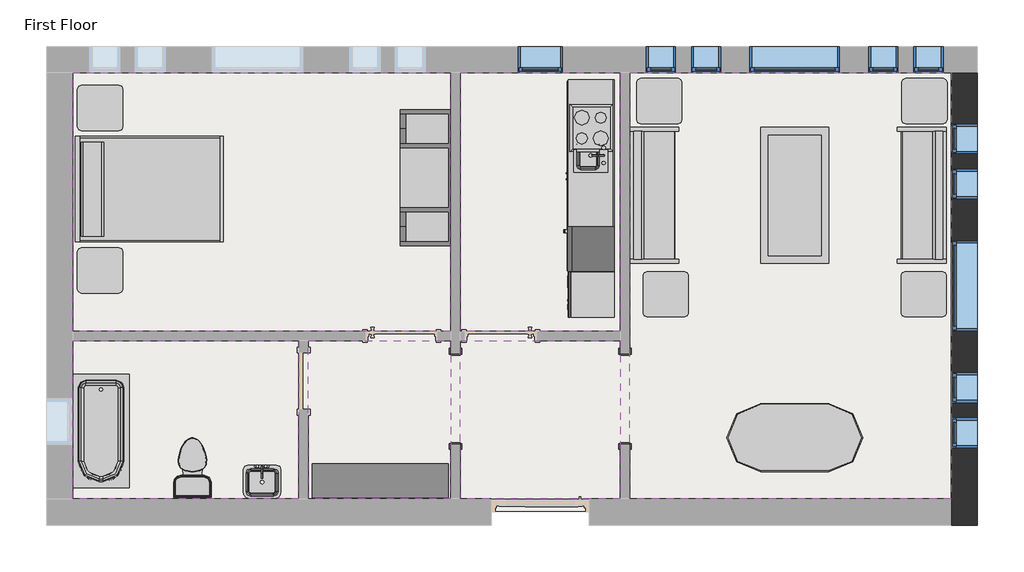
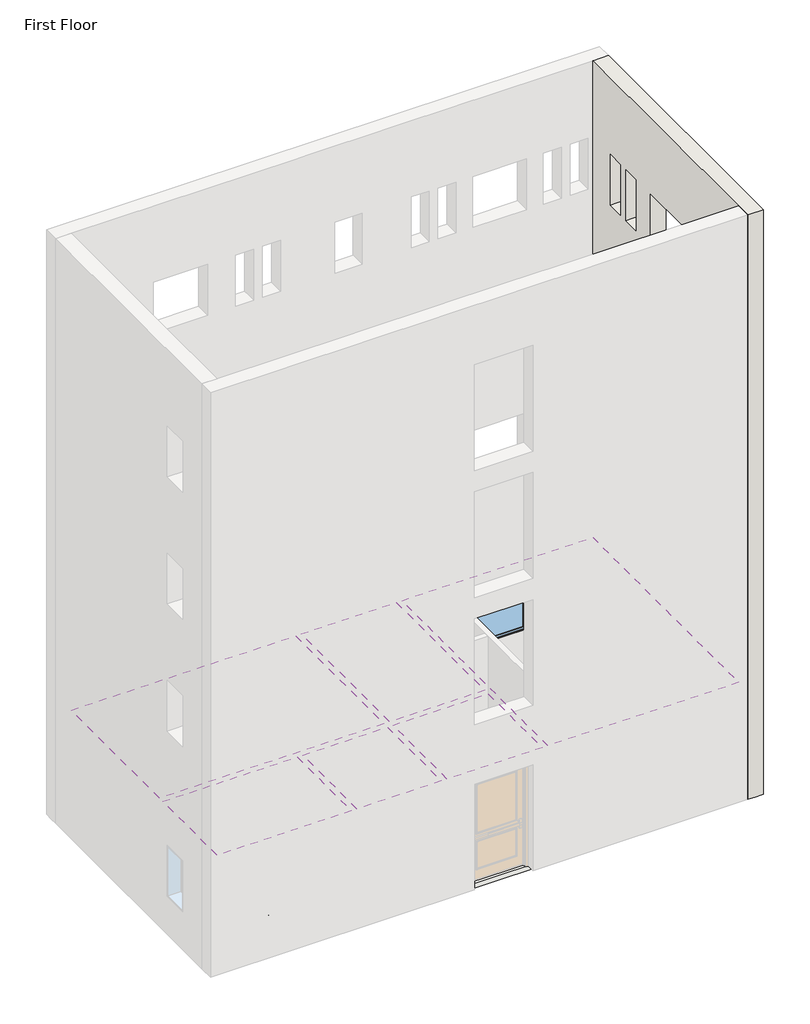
# One storey, part 2 of 2: 14 furniture elements, 11 windows, 6 coverings, 6 proxies, 4 flow terminals, 1 slab, 1 wall.
"""IFC4 building model written with IfcOpenShell, lengths in millimetres."""

from ifc_helpers import new_model, si_unit, frame, origin, place, context, project, spatial, polyline, outline, extrude, faceted_brep, transform, mapped, element, save
from components import proxy_a6faaae8, proxy_45b28599, proxy_2d72b8be, proxy_f44482cc, proxy_d58c73d0, proxy_c523a7b7, flow_terminal_871c2e40, flow_terminal_62a433f7, toilet_domestic_3d_toilet_domestic_3d_f7549cf7, toilet_domestic_3d_toilet_domestic_3d_183bbd19, tub_rectangular_3d_tub_rectangular_3d_c56944d8, furniture_096e7f55, furniture_b11095bc, furniture_7c473f12, furniture_cf0b6580, furniture_a4ffab56, furniture_4aa42607, furniture_cd93a443, furniture_2c34a4f9, furniture_3a588284, furniture_1befe2a2, window_da97879f, window_d61ef850, window_60baf983, window_6eb97611

model = new_model("IFC4")

# Units and contexts
model_context = context("Model", 3, world=origin())
ifc_project = project(units=[si_unit("LENGTHUNIT", "METRE", prefix="MILLI")], contexts=[model_context])

# Site, building, storey
site = spatial("IfcSite", under=ifc_project)
building = spatial("IfcBuilding", under=site)
storey = spatial("IfcBuildingStorey", under=building, Name="First Floor", Elevation=-914.4)

# Proxies
placement = place(None, origin())
proxy_shape = proxy_a6faaae8(model_context)
element("IfcBuildingElementProxy", 1, Name="Cook Top-4 Unit2 : 22\" x 20\"", ObjectType="Cook Top-4 Unit2 : 22\" x 20\"", at=placement, inside=storey, context=model_context, shape_type="MappedRepresentation", body=[
    mapped(proxy_shape, transform((-9031.7273953, 6866.0370415, -912.7), x_axis=(0.0, 1.0, 0.0), y_axis=(-1.0, 0.0, 0.0), z_axis=(0.0, 0.0, 1.0))),
])
proxy_2_shape = proxy_45b28599(model_context)
element("IfcBuildingElementProxy", 2, Name="Dishwasher : 24\" x 24\" x 34\"", ObjectType="Dishwasher : 24\" x 24\" x 34\"", at=placement, inside=storey, context=model_context, shape_type="MappedRepresentation", body=[
    mapped(proxy_2_shape, transform((-9291.8269601, 5000.45451, -914.4), x_axis=(0.0, -1.0, 0.0), y_axis=(1.0, 0.0, 0.0), z_axis=(0.0, 0.0, 1.0))),
])
proxy_3_shape = proxy_2d72b8be(model_context)
element("IfcBuildingElementProxy", 3, Name="Kitchenette - Medium : 8'6\"", ObjectType="Kitchenette - Medium : 8'6\"", at=placement, inside=storey, context=model_context, shape_type="MappedRepresentation", body=[
    mapped(proxy_3_shape, transform((-8720.5773953, 6237.0747464, -914.4), x_axis=(0.0, -1.0, 0.0), y_axis=(1.0, 0.0, 0.0), z_axis=(0.0, 0.0, 1.0))),
])
proxy_4_shape = proxy_f44482cc(model_context)
element("IfcBuildingElementProxy", 4, Name="Passage Opening-Cased : 48\" x 84\"", ObjectType="Passage Opening-Cased : 48\" x 84\"", at=placement, inside=storey, context=model_context, shape_type="MappedRepresentation", body=[
    mapped(proxy_4_shape, transform((-8577.1844712, 3224.0452741, -914.4), x_axis=(0.0, 1.0, 0.0), y_axis=(-1.0, 0.0, 0.0), z_axis=(0.0, 0.0, 1.0))),
])
proxy_5_shape = proxy_d58c73d0(model_context)
element("IfcBuildingElementProxy", 5, Name="Passage Opening-Cased : 48\" x 84\"", ObjectType="Passage Opening-Cased : 48\" x 84\"", at=placement, inside=storey, context=model_context, shape_type="MappedRepresentation", body=[
    mapped(proxy_5_shape, transform((-10863.1844712, 3224.0452741, -914.4), x_axis=(0.0, 1.0, 0.0), y_axis=(-1.0, 0.0, 0.0), z_axis=(0.0, 0.0, 1.0))),
])
proxy_6_shape = proxy_c523a7b7(model_context)
element("IfcBuildingElementProxy", 6, Name="Refrigerator : 24\" x 25\" LH", ObjectType="Refrigerator : 24\" x 25\" LH", at=placement, inside=storey, context=model_context, shape_type="MappedRepresentation", body=[
    mapped(proxy_6_shape, transform((-9020.2263668, 5234.0870415, -914.4), x_axis=(0.0, -1.0, 0.0), y_axis=(1.0, 0.0, 0.0), z_axis=(0.0, 0.0, 1.0))),
])

# Coverings
element("IfcCovering", 7, ObjectType="GWB on Mtl. Stud", at=placement, inside=storey, context=model_context, shape_type="SweptSolid", body=[
    extrude(outline(polyline([(-16020.9719712, 7611.6441174), (-10926.6844712, 7611.6441174), (-10926.6844712, 4128.6691174), (-16020.9719712, 4128.6691174), (-16020.9719712, 7611.6441174)])), frame((0.0, 0.0, 1676.4), z_axis=(0.0, 0.0, 1.0), x_axis=(1.0, 0.0, 0.0)), (0.0, 0.0, 1.0), 107.95),
])
element("IfcCovering", 8, ObjectType="GWB on Mtl. Stud", at=placement, inside=storey, context=model_context, shape_type="SweptSolid", body=[
    extrude(outline(polyline([(-10799.6844712, 4128.6691174), (-10799.6844712, 7611.6441174), (-8640.6844712, 7611.6441174), (-8640.6844712, 4128.6691174), (-10799.6844712, 4128.6691174)])), frame((0.0, 0.0, 1676.4), z_axis=(0.0, 0.0, 1.0), x_axis=(1.0, 0.0, 0.0)), (0.0, 0.0, 1.0), 107.95),
])
element("IfcCovering", 9, ObjectType="GWB on Mtl. Stud", at=placement, inside=storey, context=model_context, shape_type="SweptSolid", body=[
    extrude(outline(polyline([(-8513.6844712, 1868.0691174), (-8513.6844712, 7611.6441174), (-4181.3969712, 7611.6441174), (-4181.3969712, 1868.0691174), (-8513.6844712, 1868.0691174)])), frame((0.0, 0.0, 1676.4), z_axis=(0.0, 0.0, 1.0), x_axis=(1.0, 0.0, 0.0)), (0.0, 0.0, 1.0), 107.95),
])
element("IfcCovering", 10, ObjectType="GWB on Mtl. Stud", at=placement, inside=storey, context=model_context, shape_type="SweptSolid", body=[
    extrude(outline(polyline([(-8640.6844712, 1868.0691174), (-10799.6844712, 1868.0691174), (-10799.6844712, 4001.6691174), (-8640.6844712, 4001.6691174), (-8640.6844712, 1868.0691174)])), frame((0.0, 0.0, 1676.4), z_axis=(0.0, 0.0, 1.0), x_axis=(1.0, 0.0, 0.0)), (0.0, 0.0, 1.0), 107.95),
])
element("IfcCovering", 11, ObjectType="GWB on Mtl. Stud", at=placement, inside=storey, context=model_context, shape_type="SweptSolid", body=[
    extrude(outline(polyline([(-10926.6844712, 1868.0691174), (-12845.9719712, 1868.0691174), (-12845.9719712, 4001.6691174), (-10926.6844712, 4001.6691174), (-10926.6844712, 1868.0691174)])), frame((0.0, 0.0, 1676.4), z_axis=(0.0, 0.0, 1.0), x_axis=(1.0, 0.0, 0.0)), (0.0, 0.0, 1.0), 107.95),
])
element("IfcCovering", 12, ObjectType="GWB on Mtl. Stud", at=placement, inside=storey, context=model_context, shape_type="SweptSolid", body=[
    extrude(outline(polyline([(-12972.9719712, 4001.6691174), (-12972.9719712, 1868.0691174), (-16020.9719712, 1868.0691174), (-16020.9719712, 4001.6691174), (-12972.9719712, 4001.6691174)])), frame((0.0, 0.0, 1676.4), z_axis=(0.0, 0.0, 1.0), x_axis=(1.0, 0.0, 0.0)), (0.0, 0.0, 1.0), 107.95),
])

# Flow terminals
flow_terminal_shape = flow_terminal_871c2e40(model_context)
element("IfcFlowTerminal", 13, ObjectType="Sink Kitchen-Island : 18\" x 18\"", at=placement, inside=storey, context=model_context, shape_type="MappedRepresentation", body=[
    mapped(flow_terminal_shape, transform((-9040.4227964, 6513.4262821, -927.1), x_axis=(0.0, -1.0, 0.0), y_axis=(1.0, 0.0, 0.0), z_axis=(0.0, 0.0, 1.0))),
])
flow_terminal_2_shape = flow_terminal_62a433f7(model_context)
element("IfcFlowTerminal", 14, ObjectType="Sink Vanity-Square : 20\" x 18\"", at=placement, inside=storey, context=model_context, shape_type="MappedRepresentation", body=[
    mapped(flow_terminal_2_shape, transform((-13483.9612118, 2145.1237163, -914.4), x_axis=(1.0, 0.0, 0.0), y_axis=(0.0, 1.0, 0.0), z_axis=(0.0, 0.0, 1.0))),
])
toilet_domestic_3d_toilet_domestic_3d_shape = toilet_domestic_3d_toilet_domestic_3d_f7549cf7(model_context)
toilet_domestic_3d_toilet_domestic_3d_2_shape = toilet_domestic_3d_toilet_domestic_3d_183bbd19(model_context)
element("IfcFlowTerminal", 15, ObjectType="Toilet-Domestic-3D : Toilet-Domestic-3D", at=placement, inside=storey, context=model_context, shape_type="MappedRepresentation", body=[
    mapped(toilet_domestic_3d_toilet_domestic_3d_shape, transform((-14408.0719712, 2388.7691174, -914.4), x_axis=(-1.0, 0.0, 0.0), y_axis=(0.0, -1.0, 0.0), z_axis=(0.0, 0.0, 1.0))),
    mapped(toilet_domestic_3d_toilet_domestic_3d_2_shape, transform((-14408.0719712, 2388.7691174, -914.4), x_axis=(-1.0, 0.0, 0.0), y_axis=(0.0, -1.0, 0.0), z_axis=(0.0, 0.0, 1.0))),
])
tub_rectangular_3d_tub_rectangular_3d_shape = tub_rectangular_3d_tub_rectangular_3d_c56944d8(model_context)
element("IfcFlowTerminal", 16, ObjectType="Tub-Rectangular-3D : Tub-Rectangular-3D", at=placement, inside=storey, context=model_context, shape_type="MappedRepresentation", body=[
    mapped(tub_rectangular_3d_tub_rectangular_3d_shape, transform((-16197.1844712, 2435.4536487, -914.4), x_axis=(0.0, -1.0, 0.0), y_axis=(1.0, 0.0, 0.0), z_axis=(0.0, 0.0, 1.0))),
])

# Furniture
furniture_shape = furniture_096e7f55(model_context)
element("IfcFurniture", 17, ObjectType="Bed-Shaker : Double 56\" x 78\"", at=placement, inside=storey, context=model_context, shape_type="MappedRepresentation", body=[
    mapped(furniture_shape, transform((-15975.8112951, 6061.1004868, -914.4), x_axis=(0.0, 1.0, 0.0), y_axis=(-1.0, 0.0, 0.0), z_axis=(0.0, 0.0, 1.0))),
])
furniture_2_shape = furniture_b11095bc(model_context)
element("IfcFurniture", 18, ObjectType="Counter Top w Sink Hole : 24\" Depth", at=placement, inside=storey, context=model_context, shape_type="MappedRepresentation", body=[
    mapped(furniture_2_shape, transform((-8720.5773953, 6313.2747464, -927.1), x_axis=(0.0, -1.0, 0.0), y_axis=(1.0, 0.0, 0.0), z_axis=(0.0, 0.0, 1.0))),
])
furniture_3_shape = furniture_7c473f12(model_context)
element("IfcFurniture", 19, ObjectType="Dresser : 72\" x 60\" x 18\"", at=placement, inside=storey, context=model_context, shape_type="MappedRepresentation", body=[
    mapped(furniture_3_shape, transform((-11608.4037114, 2478.8820715, -914.4), x_axis=(1.0, 0.0, 0.0), y_axis=(0.0, 1.0, 0.0), z_axis=(0.0, 0.0, 1.0))),
])
furniture_4_shape = furniture_cf0b6580(model_context)
element("IfcFurniture", 20, ObjectType="Entertainment Center : 72\" x 72\" x 24\"", at=placement, inside=storey, context=model_context, shape_type="MappedRepresentation", body=[
    mapped(furniture_4_shape, transform((-10825.0844712, 6196.8069525, -914.4), x_axis=(0.0, -1.0, 0.0), y_axis=(1.0, 0.0, 0.0), z_axis=(0.0, 0.0, 1.0))),
])
furniture_5_shape = furniture_a4ffab56(model_context)
element("IfcFurniture", 21, ObjectType="Sofa : 72\"", at=placement, inside=storey, context=model_context, shape_type="MappedRepresentation", body=[
    mapped(furniture_5_shape, transform((-8037.3303728, 5888.6861256, -914.4), x_axis=(0.0, 1.0, 0.0), y_axis=(-1.0, 0.0, 0.0), z_axis=(0.0, 0.0, 1.0))),
])
furniture_6_shape = furniture_4aa42607(model_context)
element("IfcFurniture", 22, ObjectType="Sofa : 72\"", at=placement, inside=storey, context=model_context, shape_type="MappedRepresentation", body=[
    mapped(furniture_6_shape, transform((-4722.8385696, 5888.6861256, -914.4), x_axis=(0.0, 1.0, 0.0), y_axis=(-1.0, 0.0, 0.0), z_axis=(0.0, 0.0, 1.0))),
])
furniture_7_shape = furniture_cd93a443(model_context)
element("IfcFurniture", 23, ObjectType="Table-Coffee : 36\" x 72\" x 18\"", at=placement, inside=storey, context=model_context, shape_type="MappedRepresentation", body=[
    mapped(furniture_7_shape, transform((-6386.395549, 5977.3223841, -914.4), x_axis=(0.0, -1.0, 0.0), y_axis=(1.0, 0.0, 0.0), z_axis=(0.0, 0.0, 1.0))),
])
furniture_8_shape = furniture_2c34a4f9(model_context)
element("IfcFurniture", 24, ObjectType="Table-Dining Oval : 36\" x 72\"", at=placement, inside=storey, context=model_context, shape_type="MappedRepresentation", body=[
    mapped(furniture_8_shape, transform((-5889.3647991, 3051.6674781, -914.4), x_axis=(1.0, 0.0, 0.0), y_axis=(0.0, 1.0, 0.0), z_axis=(0.0, 0.0, 1.0))),
])
furniture_9_shape = furniture_3a588284(model_context)
element("IfcFurniture", 25, ObjectType="Table-End : 24\" x 24\"", at=placement, inside=storey, context=model_context, shape_type="MappedRepresentation", body=[
    mapped(furniture_9_shape, transform((-8424.0054177, 7076.6566174, -914.4), x_axis=(1.0, 0.0, 0.0), y_axis=(0.0, 1.0, 0.0), z_axis=(0.0, 0.0, 1.0))),
])
element("IfcFurniture", 26, ObjectType="Table-End : 24\" x 24\"", at=placement, inside=storey, context=model_context, shape_type="MappedRepresentation", body=[
    mapped(furniture_9_shape, transform((-8338.5433691, 4473.0178252, -914.4), x_axis=(1.0, 0.0, 0.0), y_axis=(0.0, 1.0, 0.0), z_axis=(0.0, 0.0, 1.0))),
])
element("IfcFurniture", 27, ObjectType="Table-End : 24\" x 24\"", at=placement, inside=storey, context=model_context, shape_type="MappedRepresentation", body=[
    mapped(furniture_9_shape, transform((-15961.2056015, 4795.4191174, -914.4), x_axis=(1.0, 0.0, 0.0), y_axis=(0.0, 1.0, 0.0), z_axis=(0.0, 0.0, 1.0))),
])
furniture_10_shape = furniture_1befe2a2(model_context)
element("IfcFurniture", 28, ObjectType="Table-End : 24\" x 24\"", at=placement, inside=storey, context=model_context, shape_type="MappedRepresentation", body=[
    mapped(furniture_10_shape, transform((-4234.5635246, 7076.6566174, -914.4), x_axis=(-1.0, 0.0, 0.0), y_axis=(0.0, -1.0, 0.0), z_axis=(0.0, 0.0, 1.0))),
])
element("IfcFurniture", 29, ObjectType="Table-End : 24\" x 24\"", at=placement, inside=storey, context=model_context, shape_type="MappedRepresentation", body=[
    mapped(furniture_10_shape, transform((-4243.8255733, 4473.0178252, -914.4), x_axis=(-1.0, 0.0, 0.0), y_axis=(0.0, -1.0, 0.0), z_axis=(0.0, 0.0, 1.0))),
])
element("IfcFurniture", 30, ObjectType="Table-End : 24\" x 24\"", at=placement, inside=storey, context=model_context, shape_type="MappedRepresentation", body=[
    mapped(furniture_10_shape, transform((-15961.2056015, 7288.6818561, -914.4), x_axis=(1.0, 0.0, 0.0), y_axis=(0.0, 1.0, 0.0), z_axis=(0.0, 0.0, 1.0))),
])

# Slab
element("IfcSlab", 31, ObjectType="LW Concrete on Metal Deck", at=placement, inside=storey, context=model_context, shape_type="SweptSolid", body=[
    extrude(outline(polyline([(-4016.2969712, 7776.7441174), (-4016.2969712, 1702.9691174), (-16186.0719712, 1702.9691174), (-16186.0719712, 7776.7441174), (-4016.2969712, 7776.7441174)])), frame((0.0, 0.0, -1019.175), z_axis=(0.0, 0.0, 1.0), x_axis=(1.0, 0.0, 0.0)), (0.0, 0.0, 1.0), 104.775),
])

# Wall
element("IfcWall", 32, ObjectType="Exterior - Brick on Mtl. Stud", at=placement, inside=storey, context=model_context, shape_type="Brep", body=[
    faceted_brep([(-4181.3969712, 7611.6441174, -914.4), (-4181.3969712, 1868.0691174, -914.4), (-4181.3969712, 1702.9691174, -914.4), (-4181.3969712, 1515.6441174, -914.4), (-4181.3969712, 1515.6441174, 13106.4), (-4181.3969712, 1868.0691174, 13106.4), (-4181.3969712, 7611.6441174, 13106.4), (-4181.3969712, 5349.4566174, 1219.2), (-4181.3969712, 4130.2566174, 1219.2), (-4181.3969712, 4130.2566174, 0.0), (-4181.3969712, 5349.4566174, 0.0), (-4181.3969712, 6314.6566174, 1219.2), (-4181.3969712, 5908.2566174, 1219.2), (-4181.3969712, 5908.2566174, 0.0), (-4181.3969712, 6314.6566174, 0.0), (-4181.3969712, 6924.2566174, 1219.2), (-4181.3969712, 6517.8566174, 1219.2), (-4181.3969712, 6517.8566174, 0.0), (-4181.3969712, 6924.2566174, 0.0), (-4181.3969712, 3165.0566174, 1219.2), (-4181.3969712, 3165.0566174, 0.0), (-4181.3969712, 3571.4566174, 0.0), (-4181.3969712, 3571.4566174, 1219.2), (-4181.3969712, 2555.4566174, 1219.2), (-4181.3969712, 2555.4566174, 0.0), (-4181.3969712, 2961.8566174, 0.0), (-4181.3969712, 2961.8566174, 1219.2), (-4181.3969712, 3165.0566174, 11277.6), (-4181.3969712, 3165.0566174, 10058.4), (-4181.3969712, 3571.4566174, 10058.4), (-4181.3969712, 3571.4566174, 11277.6), (-4181.3969712, 2555.4566174, 11277.6), (-4181.3969712, 2555.4566174, 10058.4), (-4181.3969712, 2961.8566174, 10058.4), (-4181.3969712, 2961.8566174, 11277.6), (-4181.3969712, 6314.6566174, 11277.6), (-4181.3969712, 5908.2566174, 11277.6), (-4181.3969712, 5908.2566174, 10058.4), (-4181.3969712, 6314.6566174, 10058.4), (-4181.3969712, 6924.2566174, 11277.6), (-4181.3969712, 6517.8566174, 11277.6), (-4181.3969712, 6517.8566174, 10058.4), (-4181.3969712, 6924.2566174, 10058.4), (-4181.3969712, 5349.4566174, 11277.6), (-4181.3969712, 4130.2566174, 11277.6), (-4181.3969712, 4130.2566174, 10058.4), (-4181.3969712, 5349.4566174, 10058.4), (-4181.3969712, 3165.0566174, 5181.6), (-4181.3969712, 3165.0566174, 3962.4), (-4181.3969712, 3571.4566174, 3962.4), (-4181.3969712, 3571.4566174, 5181.6), (-4181.3969712, 2555.4566174, 5181.6), (-4181.3969712, 2555.4566174, 3962.4), (-4181.3969712, 2961.8566174, 3962.4), (-4181.3969712, 2961.8566174, 5181.6), (-4181.3969712, 6314.6566174, 5181.6), (-4181.3969712, 5908.2566174, 5181.6), (-4181.3969712, 5908.2566174, 3962.4), (-4181.3969712, 6314.6566174, 3962.4), (-4181.3969712, 6924.2566174, 5181.6), (-4181.3969712, 6517.8566174, 5181.6), (-4181.3969712, 6517.8566174, 3962.4), (-4181.3969712, 6924.2566174, 3962.4), (-4181.3969712, 5349.4566174, 5181.6), (-4181.3969712, 4130.2566174, 5181.6), (-4181.3969712, 4130.2566174, 3962.4), (-4181.3969712, 5349.4566174, 3962.4), (-4181.3969712, 3165.0566174, 8229.6), (-4181.3969712, 3165.0566174, 7010.4), (-4181.3969712, 3571.4566174, 7010.4), (-4181.3969712, 3571.4566174, 8229.6), (-4181.3969712, 2555.4566174, 8229.6), (-4181.3969712, 2555.4566174, 7010.4), (-4181.3969712, 2961.8566174, 7010.4), (-4181.3969712, 2961.8566174, 8229.6), (-4181.3969712, 6314.6566174, 8229.6), (-4181.3969712, 5908.2566174, 8229.6), (-4181.3969712, 5908.2566174, 7010.4), (-4181.3969712, 6314.6566174, 7010.4), (-4181.3969712, 6924.2566174, 8229.6), (-4181.3969712, 6517.8566174, 8229.6), (-4181.3969712, 6517.8566174, 7010.4), (-4181.3969712, 6924.2566174, 7010.4), (-4181.3969712, 5349.4566174, 8229.6), (-4181.3969712, 4130.2566174, 8229.6), (-4181.3969712, 4130.2566174, 7010.4), (-4181.3969712, 5349.4566174, 7010.4), (-3828.9719712, 7611.6441174, -914.4), (-3828.9719712, 7611.6441174, 13106.4), (-3828.9719712, 1515.6441174, 13106.4), (-3828.9719712, 1515.6441174, -914.4), (-3828.9719712, 1702.9691174, -914.4), (-3828.9719712, 5349.4566174, 1219.2), (-3828.9719712, 5349.4566174, 0.0), (-3828.9719712, 4130.2566174, 0.0), (-3828.9719712, 4130.2566174, 1219.2), (-3828.9719712, 6314.6566174, 1219.2), (-3828.9719712, 6314.6566174, 0.0), (-3828.9719712, 5908.2566174, 0.0), (-3828.9719712, 5908.2566174, 1219.2), (-3828.9719712, 6924.2566174, 1219.2), (-3828.9719712, 6924.2566174, 0.0), (-3828.9719712, 6517.8566174, 0.0), (-3828.9719712, 6517.8566174, 1219.2), (-3828.9719712, 3165.0566174, 1219.2), (-3828.9719712, 3571.4566174, 1219.2), (-3828.9719712, 3571.4566174, 0.0), (-3828.9719712, 3165.0566174, 0.0), (-3828.9719712, 2555.4566174, 1219.2), (-3828.9719712, 2961.8566174, 1219.2), (-3828.9719712, 2961.8566174, 0.0), (-3828.9719712, 2555.4566174, 0.0), (-3828.9719712, 3165.0566174, 11277.6), (-3828.9719712, 3571.4566174, 11277.6), (-3828.9719712, 3571.4566174, 10058.4), (-3828.9719712, 3165.0566174, 10058.4), (-3828.9719712, 2555.4566174, 11277.6), (-3828.9719712, 2961.8566174, 11277.6), (-3828.9719712, 2961.8566174, 10058.4), (-3828.9719712, 2555.4566174, 10058.4), (-3828.9719712, 6314.6566174, 11277.6), (-3828.9719712, 6314.6566174, 10058.4), (-3828.9719712, 5908.2566174, 10058.4), (-3828.9719712, 5908.2566174, 11277.6), (-3828.9719712, 6924.2566174, 11277.6), (-3828.9719712, 6924.2566174, 10058.4), (-3828.9719712, 6517.8566174, 10058.4), (-3828.9719712, 6517.8566174, 11277.6), (-3828.9719712, 5349.4566174, 11277.6), (-3828.9719712, 5349.4566174, 10058.4), (-3828.9719712, 4130.2566174, 10058.4), (-3828.9719712, 4130.2566174, 11277.6), (-3828.9719712, 3165.0566174, 5181.6), (-3828.9719712, 3571.4566174, 5181.6), (-3828.9719712, 3571.4566174, 3962.4), (-3828.9719712, 3165.0566174, 3962.4), (-3828.9719712, 2555.4566174, 5181.6), (-3828.9719712, 2961.8566174, 5181.6), (-3828.9719712, 2961.8566174, 3962.4), (-3828.9719712, 2555.4566174, 3962.4), (-3828.9719712, 6314.6566174, 5181.6), (-3828.9719712, 6314.6566174, 3962.4), (-3828.9719712, 5908.2566174, 3962.4), (-3828.9719712, 5908.2566174, 5181.6), (-3828.9719712, 6924.2566174, 5181.6), (-3828.9719712, 6924.2566174, 3962.4), (-3828.9719712, 6517.8566174, 3962.4), (-3828.9719712, 6517.8566174, 5181.6), (-3828.9719712, 5349.4566174, 5181.6), (-3828.9719712, 5349.4566174, 3962.4), (-3828.9719712, 4130.2566174, 3962.4), (-3828.9719712, 4130.2566174, 5181.6), (-3828.9719712, 3165.0566174, 8229.6), (-3828.9719712, 3571.4566174, 8229.6), (-3828.9719712, 3571.4566174, 7010.4), (-3828.9719712, 3165.0566174, 7010.4), (-3828.9719712, 2555.4566174, 8229.6), (-3828.9719712, 2961.8566174, 8229.6), (-3828.9719712, 2961.8566174, 7010.4), (-3828.9719712, 2555.4566174, 7010.4), (-3828.9719712, 6314.6566174, 8229.6), (-3828.9719712, 6314.6566174, 7010.4), (-3828.9719712, 5908.2566174, 7010.4), (-3828.9719712, 5908.2566174, 8229.6), (-3828.9719712, 6924.2566174, 8229.6), (-3828.9719712, 6924.2566174, 7010.4), (-3828.9719712, 6517.8566174, 7010.4), (-3828.9719712, 6517.8566174, 8229.6), (-3828.9719712, 5349.4566174, 8229.6), (-3828.9719712, 5349.4566174, 7010.4), (-3828.9719712, 4130.2566174, 7010.4), (-3828.9719712, 4130.2566174, 8229.6), (-4016.2969712, 7611.6441174, -914.4), (-4016.2969712, 1515.6441174, -914.4), (-4016.2969712, 1702.9691174, -914.4)], [[[0, 1, 2, 3, 4, 5, 6], [7, 8, 9, 10], [11, 12, 13, 14], [15, 16, 17, 18], [19, 20, 21, 22], [23, 24, 25, 26], [27, 28, 29, 30], [31, 32, 33, 34], [35, 36, 37, 38], [39, 40, 41, 42], [43, 44, 45, 46], [47, 48, 49, 50], [51, 52, 53, 54], [55, 56, 57, 58], [59, 60, 61, 62], [63, 64, 65, 66], [67, 68, 69, 70], [71, 72, 73, 74], [75, 76, 77, 78], [79, 80, 81, 82], [83, 84, 85, 86]], [[87, 88, 89, 90, 91], [92, 93, 94, 95], [96, 97, 98, 99], [100, 101, 102, 103], [104, 105, 106, 107], [108, 109, 110, 111], [112, 113, 114, 115], [116, 117, 118, 119], [120, 121, 122, 123], [124, 125, 126, 127], [128, 129, 130, 131], [132, 133, 134, 135], [136, 137, 138, 139], [140, 141, 142, 143], [144, 145, 146, 147], [148, 149, 150, 151], [152, 153, 154, 155], [156, 157, 158, 159], [160, 161, 162, 163], [164, 165, 166, 167], [168, 169, 170, 171]], [[6, 5, 4, 89, 88]], [[0, 6, 88, 87, 172]], [[4, 3, 173, 90, 89]], [[93, 92, 7, 10]], [[94, 93, 10, 9]], [[95, 94, 9, 8]], [[92, 95, 8, 7]], [[97, 96, 11, 14]], [[98, 97, 14, 13]], [[99, 98, 13, 12]], [[96, 99, 12, 11]], [[101, 100, 15, 18]], [[102, 101, 18, 17]], [[103, 102, 17, 16]], [[100, 103, 16, 15]], [[20, 19, 104, 107]], [[21, 20, 107, 106]], [[22, 21, 106, 105]], [[19, 22, 105, 104]], [[24, 23, 108, 111]], [[25, 24, 111, 110]], [[26, 25, 110, 109]], [[23, 26, 109, 108]], [[172, 87, 91, 174]], [[3, 2, 174, 173]], [[174, 91, 90, 173]], [[2, 1, 0, 172, 174]], [[28, 27, 112, 115]], [[29, 28, 115, 114]], [[30, 29, 114, 113]], [[27, 30, 113, 112]], [[32, 31, 116, 119]], [[33, 32, 119, 118]], [[34, 33, 118, 117]], [[31, 34, 117, 116]], [[121, 120, 35, 38]], [[122, 121, 38, 37]], [[123, 122, 37, 36]], [[120, 123, 36, 35]], [[125, 124, 39, 42]], [[126, 125, 42, 41]], [[127, 126, 41, 40]], [[124, 127, 40, 39]], [[129, 128, 43, 46]], [[130, 129, 46, 45]], [[131, 130, 45, 44]], [[128, 131, 44, 43]], [[48, 47, 132, 135]], [[49, 48, 135, 134]], [[50, 49, 134, 133]], [[47, 50, 133, 132]], [[52, 51, 136, 139]], [[53, 52, 139, 138]], [[54, 53, 138, 137]], [[51, 54, 137, 136]], [[141, 140, 55, 58]], [[142, 141, 58, 57]], [[143, 142, 57, 56]], [[140, 143, 56, 55]], [[145, 144, 59, 62]], [[146, 145, 62, 61]], [[147, 146, 61, 60]], [[144, 147, 60, 59]], [[149, 148, 63, 66]], [[150, 149, 66, 65]], [[151, 150, 65, 64]], [[148, 151, 64, 63]], [[68, 67, 152, 155]], [[69, 68, 155, 154]], [[70, 69, 154, 153]], [[67, 70, 153, 152]], [[72, 71, 156, 159]], [[73, 72, 159, 158]], [[74, 73, 158, 157]], [[71, 74, 157, 156]], [[161, 160, 75, 78]], [[162, 161, 78, 77]], [[163, 162, 77, 76]], [[160, 163, 76, 75]], [[165, 164, 79, 82]], [[166, 165, 82, 81]], [[167, 166, 81, 80]], [[164, 167, 80, 79]], [[169, 168, 83, 86]], [[170, 169, 86, 85]], [[171, 170, 85, 84]], [[168, 171, 84, 83]]]),
])

# Windows
window_shape = window_da97879f(model_context)
element("IfcWindow", 33, ObjectType="Fixed : 16\" x 48\"", at=placement, inside=storey, context=model_context, shape_type="MappedRepresentation", body=[
    mapped(window_shape, transform((-8132.6844712, 7787.8566174, -914.4), x_axis=(-1.0, 0.0, 0.0), y_axis=(0.0, -1.0, 0.0), z_axis=(0.0, 0.0, 1.0))),
])
element("IfcWindow", 34, ObjectType="Fixed : 16\" x 48\"", at=placement, inside=storey, context=model_context, shape_type="MappedRepresentation", body=[
    mapped(window_shape, transform((-7523.0844712, 7787.8566174, -914.4), x_axis=(-1.0, 0.0, 0.0), y_axis=(0.0, -1.0, 0.0), z_axis=(0.0, 0.0, 1.0))),
])
element("IfcWindow", 35, ObjectType="Fixed : 16\" x 48\"", at=placement, inside=storey, context=model_context, shape_type="MappedRepresentation", body=[
    mapped(window_shape, transform((-4005.1844712, 6759.1566174, -914.4), x_axis=(0.0, 1.0, 0.0), y_axis=(-1.0, 0.0, 0.0), z_axis=(0.0, 0.0, 1.0))),
])
element("IfcWindow", 36, ObjectType="Fixed : 16\" x 48\"", at=placement, inside=storey, context=model_context, shape_type="MappedRepresentation", body=[
    mapped(window_shape, transform((-4005.1844712, 6149.5566174, -914.4), x_axis=(0.0, 1.0, 0.0), y_axis=(-1.0, 0.0, 0.0), z_axis=(0.0, 0.0, 1.0))),
])
window_2_shape = window_d61ef850(model_context)
element("IfcWindow", 37, ObjectType="Fixed : 16\" x 48\"", at=placement, inside=storey, context=model_context, shape_type="MappedRepresentation", body=[
    mapped(window_2_shape, transform((-4449.6844712, 7787.8566174, -914.4), x_axis=(1.0, 0.0, 0.0), y_axis=(0.0, 1.0, 0.0), z_axis=(0.0, 0.0, 1.0))),
])
element("IfcWindow", 38, ObjectType="Fixed : 16\" x 48\"", at=placement, inside=storey, context=model_context, shape_type="MappedRepresentation", body=[
    mapped(window_2_shape, transform((-5059.2844712, 7787.8566174, -914.4), x_axis=(1.0, 0.0, 0.0), y_axis=(0.0, 1.0, 0.0), z_axis=(0.0, 0.0, 1.0))),
])
element("IfcWindow", 39, ObjectType="Fixed : 16\" x 48\"", at=placement, inside=storey, context=model_context, shape_type="MappedRepresentation", body=[
    mapped(window_2_shape, transform((-4005.1844712, 2720.5566174, -914.4), x_axis=(0.0, -1.0, 0.0), y_axis=(1.0, 0.0, 0.0), z_axis=(0.0, 0.0, 1.0))),
])
element("IfcWindow", 40, ObjectType="Fixed : 16\" x 48\"", at=placement, inside=storey, context=model_context, shape_type="MappedRepresentation", body=[
    mapped(window_2_shape, transform((-4005.1844712, 3330.1566174, -914.4), x_axis=(0.0, -1.0, 0.0), y_axis=(1.0, 0.0, 0.0), z_axis=(0.0, 0.0, 1.0))),
])
window_3_shape = window_60baf983(model_context)
element("IfcWindow", 41, ObjectType="Fixed : 24\" x 48\"", at=placement, inside=storey, context=model_context, shape_type="MappedRepresentation", body=[
    mapped(window_3_shape, transform((-9758.2844712, 7787.8566174, -914.4), x_axis=(-1.0, 0.0, 0.0), y_axis=(0.0, -1.0, 0.0), z_axis=(0.0, 0.0, 1.0))),
])
window_4_shape = window_6eb97611(model_context)
element("IfcWindow", 42, ObjectType="Fixed : 48\" x 48\"", at=placement, inside=storey, context=model_context, shape_type="MappedRepresentation", body=[
    mapped(window_4_shape, transform((-6329.2844712, 7787.8566174, -914.4), x_axis=(-1.0, 0.0, 0.0), y_axis=(0.0, -1.0, 0.0), z_axis=(0.0, 0.0, 1.0))),
])
element("IfcWindow", 43, ObjectType="Fixed : 48\" x 48\"", at=placement, inside=storey, context=model_context, shape_type="MappedRepresentation", body=[
    mapped(window_4_shape, transform((-4005.1844712, 4777.9566174, -914.4), x_axis=(0.0, 1.0, 0.0), y_axis=(-1.0, 0.0, 0.0), z_axis=(0.0, 0.0, 1.0))),
])

save(model, "model.ifc")
